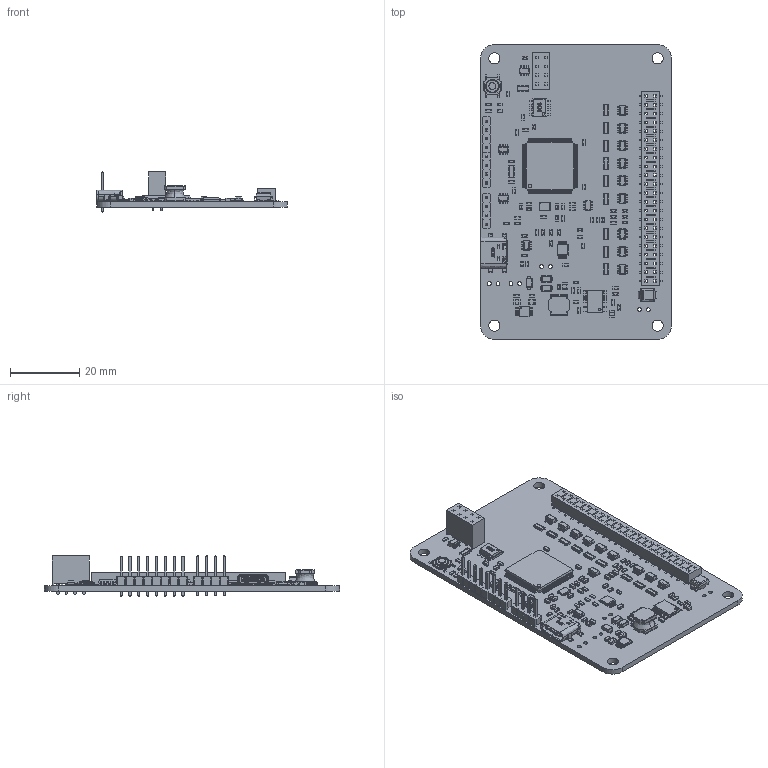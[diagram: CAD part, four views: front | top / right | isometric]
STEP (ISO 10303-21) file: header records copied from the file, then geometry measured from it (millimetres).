
FILE_DESCRIPTION(('KiCad electronic assembly'),'2;1');
FILE_NAME('Landungsbr_cke_V30.step','2023-06-02T10:31:43',('Pcbnew'),( 'Kicad'),'Open CASCADE STEP processor 7.6','KiCad to STEP converter' ,'Unknown');
FILE_SCHEMA(('AUTOMOTIVE_DESIGN { 1 0 10303 214 1 1 1 1 }'));
Length unit declared in the file: millimetre
Products named in the file (44): Landungsbr_cke_V30 1; XTAL-3,2mmx2,5mm; COMPOUND; 0603_Res; SOLID; 0603_Cap; SOIC-8; 1206_Res_ARR; SOT23-6; TSSOP-20_LT8631; SOCKET-2X4_V_2.54; LED_0603; LQFP100; 0805_Cap; 0603_Ferrite; SOD123W; MSOP-8; Ind_6x6mm; SMB_pol; MSOP-10; TL3342F260QG; USB4110-GF-A_REVB; HEADER-1X4_V_2.54; HLE-122-02-S-DV-BE-A; LandungsbrÃ¼cke_V30 PCB
Assembly tree (131 placements, depth 3):
  Landungsbr_cke_V30 1
    XTAL-3,2mmx2,5mm
      COMPOUND
    0603_Res  x31
      SOLID
    0603_Cap  x28
      COMPOUND
    SOIC-8
      SOLID
    1206_Res_ARR  x11
      COMPOUND
    SOT23-6  x14
      COMPOUND
    TSSOP-20_LT8631
      COMPOUND
    SOCKET-2X4_V_2.54
      COMPOUND
    LED_0603  x2
      COMPOUND
    LQFP100
      COMPOUND
    0805_Cap  x4
      COMPOUND
    0603_Ferrite
      COMPOUND
    SOD123W  x3
      COMPOUND
    MSOP-8
      COMPOUND
    Ind_6x6mm
      COMPOUND
    SMB_pol
      COMPOUND
    MSOP-10
      COMPOUND
    TL3342F260QG
      SOLID
    USB4110-GF-A_REVB
      COMPOUND
    HEADER-1X4_V_2.54  x3
      COMPOUND
    HLE-122-02-S-DV-BE-A
      COMPOUND
    LandungsbrÃ¼cke_V30 PCB
Bounding box: 55 x 85 x 11.59 mm (x, y, z)
Volume: 9888.7 mm3; surface area: 17440.4 mm2
Topology: 561 solids, 561 shells, 11661 faces, 29869 edges, 19099 vertices
Faces by surface type: bspline 11571, cylinder 84, plane 6
Full cylindrical faces by diameter (mm): 0.65 x2, 1.05 x44, 1.1 x28, 1.8 x2, 3.2 x4
Entity records: 341888 total; most frequent: CARTESIAN_POINT 141832, B_SPLINE_CURVE_WITH_KNOTS 39848, ORIENTED_EDGE 29870, PCURVE 29870, DEFINITIONAL_REPRESENTATION 29870, EDGE_CURVE 14935, SURFACE_CURVE 14847, VERTEX_POINT 9715
